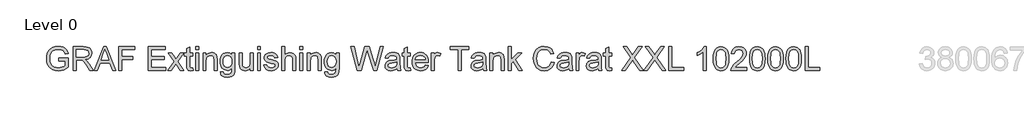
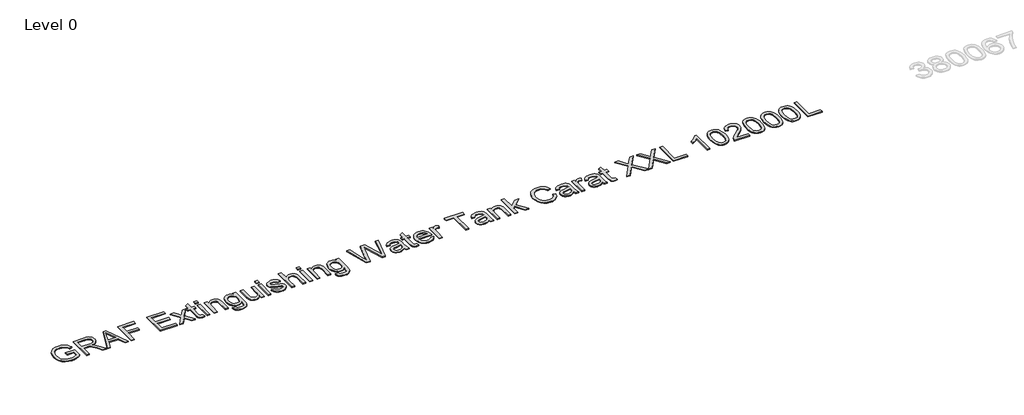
# One storey, part 24 of 37: 1 proxy.
"""IFC4 building model written with IfcOpenShell, lengths in millimetres."""

from ifc_helpers import new_model, si_unit, origin, origin_with_axes, place, context, project, spatial, polyline, outline, extrude, element, save

model = new_model("IFC4")

# Units and contexts
model_context = context("Model", 3, world=origin())
ifc_project = project(units=[si_unit("LENGTHUNIT", "METRE", prefix="MILLI")], contexts=[model_context])

# Site, building, storey
site = spatial("IfcSite", under=ifc_project)
building = spatial("IfcBuilding", under=site)
storey = spatial("IfcBuildingStorey", under=building, Name="Level 0", Elevation=0.0)

# Proxy
placement = place(None, origin())
element("IfcBuildingElementProxy", 1, Name="300mm Arial", ObjectType="300mm Arial", at=placement, inside=storey, context=model_context, shape_type="SweptSolid", body=[
    extrude(outline(polyline([(16759.0059613, -25583.2545597), (16759.0059613, -25545.5834434), (16881.4370893, -25545.5834434), (16881.4370893, -25658.2289103), (16851.6846329, -25678.9222726), (16820.9940775, -25693.7663111), (16789.4389993, -25702.7058436), (16757.0929749, -25705.6856877), (16714.8325307, -25700.949207), (16676.6371825, -25686.739765), (16644.9073605, -25663.5540022), (16622.0434945, -25631.8885595), (16608.2203285, -25593.9047435), (16603.6126065, -25551.7638609), (16608.2019344, -25509.3194757), (16621.9699181, -25469.8365406), (16644.3463404, -25436.717964), (16674.7609844, -25413.3666543), (16711.8067013, -25399.5158972), (16754.0763425, -25394.8989782), (16785.1071888, -25397.5753197), (16813.0110382, -25405.6043443), (16836.5095006, -25418.4066377), (16854.3241862, -25435.4027859), (16867.5035587, -25457.4113262), (16877.0960817, -25485.2507962), (16842.3680214, -25495.0364573), (16834.6149083, -25475.1800266), (16825.1879322, -25460.1980323), (16812.7167326, -25448.9040551), (16795.830949, -25440.1116754), (16775.6986068, -25434.4554897), (16753.4877313, -25432.5700945), (16727.4876713, -25434.6026425), (16705.2584018, -25440.7002866), (16686.8826961, -25450.0996716), (16672.4433278, -25462.0374423), (16653.0559467, -25491.0633317), (16644.2267788, -25519.50061), (16641.2837228, -25550.2187566), (16644.824587, -25586.2436009), (16655.4471796, -25615.8856927), (16672.8296039, -25638.9334997), (16696.6499631, -25655.1754898), (16724.5262213, -25664.804801), (16754.0763425, -25668.0145714), (16780.168373, -25665.5957473), (16805.6166101, -25658.3392749), (16827.7171209, -25648.3420817), (16843.765973, -25637.701095), (16843.765973, -25583.2545597), (16759.0059613, -25583.2545597)])), origin_with_axes(), (0.0, 0.0, 1.0), 10.0),
    extrude(outline(polyline([(16942.6526533, -25700.9767982), (16942.6526533, -25399.6078677), (17072.5149976, -25399.6078677), (17107.4178018, -25401.6404158), (17132.8108566, -25407.7380598), (17151.3705032, -25418.9952489), (17165.7730833, -25436.5064318), (17175.0161185, -25458.2206666), (17178.0971302, -25482.087011), (17172.9927675, -25511.7750881), (17157.6796794, -25536.3863935), (17146.0799003, -25546.4157764), (17131.6980135, -25554.4310054), (17094.5879173, -25564.4190016), (17115.9986494, -25580.532233), (17146.532855, -25619.3069952), (17196.7855355, -25700.9767982), (17153.0075781, -25700.9767982), (17113.7913574, -25638.5104354), (17085.4644438, -25597.1604991), (17065.5620278, -25577.6259652), (17047.6461747, -25570.4522663), (17025.7939842, -25569.1278911), (16980.3237696, -25569.1278911), (16980.3237696, -25700.9767982), (16942.6526533, -25700.9767982)]), holes=[polyline([(16980.3237696, -25531.4567748), (17064.6423229, -25531.4567748), (17088.8581552, -25530.1232026), (17107.6477281, -25526.1224859), (17121.7927908, -25519.1879103), (17132.0750926, -25509.0527613), (17138.3382835, -25496.7930938), (17140.4260139, -25483.4849626), (17136.4436913, -25465.109257), (17124.4967235, -25450.3020067), (17103.941317, -25440.5347397), (17074.1336783, -25437.278984), (16980.3237696, -25437.278984), (16980.3237696, -25531.4567748)])]), origin_with_axes(), (0.0, 0.0, 1.0), 10.0),
    extrude(outline(polyline([(17208.9256414, -25700.9767982), (17329.2230538, -25399.6078677), (17361.3023638, -25399.6078677), (17481.5997762, -25700.9767982), (17441.7949443, -25700.9767982), (17407.2876132, -25606.7990074), (17283.164228, -25606.7990074), (17248.7304732, -25700.9767982), (17208.9256414, -25700.9767982)]), holes=[polyline([(17296.996591, -25569.1278911), (17393.5288265, -25569.1278911), (17366.3791353, -25495.0364573), (17345.2627088, -25437.278984), (17326.500727, -25488.5617342), (17296.996591, -25569.1278911)])]), origin_with_axes(), (0.0, 0.0, 1.0), 10.0),
    extrude(outline(polyline([(17521.8460665, -25700.9767982), (17521.8460665, -25399.6078677), (17724.3283166, -25399.6078677), (17724.3283166, -25437.278984), (17559.5171828, -25437.278984), (17559.5171828, -25526.7478853), (17700.7838689, -25526.7478853), (17700.7838689, -25564.4190016), (17559.5171828, -25564.4190016), (17559.5171828, -25700.9767982), (17521.8460665, -25700.9767982)])), origin_with_axes(), (0.0, 0.0, 1.0), 10.0),
    extrude(outline(polyline([(17893.84834, -25700.9767982), (17893.84834, -25399.6078677), (18110.4572587, -25399.6078677), (18110.4572587, -25437.278984), (17931.5194563, -25437.278984), (17931.5194563, -25526.7478853), (18101.0394797, -25526.7478853), (18101.0394797, -25564.4190016), (17931.5194563, -25564.4190016), (17931.5194563, -25663.3056819), (18115.1661483, -25663.3056819), (18115.1661483, -25700.9767982), (17893.84834, -25700.9767982)])), origin_with_axes(), (0.0, 0.0, 1.0), 10.0),
    extrude(outline(polyline([(18143.4194855, -25700.9767982), (18223.9120661, -25589.7292828), (18148.1283751, -25479.6589899), (18193.4514369, -25479.6589899), (18230.0189072, -25532.6339972), (18247.0886318, -25557.6499729), (18261.877488, -25537.1957339), (18303.5217298, -25479.6589899), (18348.8447916, -25479.6589899), (18269.2351279, -25589.7292828), (18345.9017357, -25700.9767982), (18300.5786739, -25700.9767982), (18254.4462717, -25634.0958515), (18245.9849858, -25621.8821692), (18188.7425473, -25700.9767982), (18143.4194855, -25700.9767982)])), origin_with_axes(), (0.0, 0.0, 1.0), 10.0),
    extrude(outline(polyline([(18458.9150846, -25669.5596758), (18463.6239741, -25702.0804442), (18435.4442133, -25705.6856877), (18417.3628132, -25704.1221892), (18403.8799381, -25699.4316938), (18394.3517944, -25692.2028126), (18388.1345887, -25683.0241568), (18384.7132861, -25667.2604133), (18383.572852, -25640.276269), (18383.572852, -25517.3301062), (18355.3195147, -25517.3301062), (18355.3195147, -25479.6589899), (18383.572852, -25479.6589899), (18383.572852, -25425.8746422), (18421.2439683, -25403.7281461), (18421.2439683, -25479.6589899), (18458.9150846, -25479.6589899), (18458.9150846, -25517.3301062), (18421.2439683, -25517.3301062), (18421.2439683, -25639.172623), (18423.230531, -25658.5967923), (18429.668466, -25665.4761856), (18442.5075476, -25668.0145714), (18458.9150846, -25669.5596758)])), origin_with_axes(), (0.0, 0.0, 1.0), 10.0),
    extrude(outline(polyline([(18496.5862009, -25437.278984), (18496.5862009, -25399.6078677), (18534.2573172, -25399.6078677), (18534.2573172, -25437.278984), (18496.5862009, -25437.278984)])), origin_with_axes(), (0.0, 0.0, 1.0), 10.0),
    extrude(outline(polyline([(18496.5862009, -25700.9767982), (18496.5862009, -25479.6589899), (18534.2573172, -25479.6589899), (18534.2573172, -25700.9767982), (18496.5862009, -25700.9767982)])), origin_with_axes(), (0.0, 0.0, 1.0), 10.0),
    extrude(outline(polyline([(18590.7639916, -25700.9767982), (18590.7639916, -25479.6589899), (18628.435108, -25479.6589899), (18628.435108, -25510.5610775), (18641.5225099, -25494.981275), (18657.2402682, -25483.8528446), (18675.5883827, -25477.1757864), (18696.5668535, -25474.9501003), (18715.1356972, -25476.7435251), (18732.1410424, -25482.1237992), (18746.3228933, -25490.4195382), (18756.4212541, -25500.9593574), (18767.7152313, -25528.6608716), (18769.7017941, -25565.0811892), (18769.7017941, -25700.9767982), (18732.0306778, -25700.9767982), (18732.0306778, -25570.1579607), (18727.6896703, -25536.8278519), (18721.6839967, -25526.9042351), (18712.3489911, -25519.2063044), (18700.3836292, -25514.2674886), (18686.4868868, -25512.6212166), (18664.4231641, -25516.3184307), (18645.6151971, -25527.4100729), (18638.0989081, -25536.4645685), (18632.7301302, -25548.8391991), (18628.435108, -25583.5488653), (18628.435108, -25700.9767982), (18590.7639916, -25700.9767982)])), origin_with_axes(), (0.0, 0.0, 1.0), 10.0),
    extrude(outline(polyline([(18812.0817999, -25719.8123563), (18849.7529163, -25724.5212459), (18853.9099828, -25736.2934697), (18861.9665985, -25744.3868736), (18877.8039184, -25750.6776557), (18898.5340688, -25752.7745831), (18920.6437767, -25750.4017442), (18937.0881019, -25743.2832276), (18948.4924438, -25731.8788858), (18955.4822017, -25716.6485712), (18958.0573756, -25672.7234609), (18945.5217966, -25685.084296), (18931.5330838, -25693.9134639), (18916.091237, -25699.2109646), (18899.1962564, -25700.9767982), (18878.5419816, -25698.9212575), (18860.3571148, -25692.7546356), (18844.6416558, -25682.4769323), (18831.3956047, -25668.0881478), (18820.8856759, -25650.8252852), (18813.378584, -25631.9253477), (18808.8743288, -25611.3883353), (18807.3729104, -25589.214248), (18810.067646, -25558.7996041), (18818.1518529, -25530.8313754), (18831.3404224, -25507.1305779), (18849.3482461, -25489.5182274), (18871.5591215, -25478.5921321), (18897.3568464, -25474.9501003), (18914.9737955, -25477.0102395), (18930.9628667, -25483.190657), (18945.3240601, -25493.4913529), (18958.0573756, -25507.9123271), (18958.0573756, -25479.6589899), (18995.7284919, -25479.6589899), (18995.7284919, -25670.7368982), (18993.153318, -25714.8551464), (18985.4277961, -25743.908627), (18972.1196649, -25763.1764465), (18952.7966631, -25777.9377116), (18927.881855, -25787.3187024), (18897.7983048, -25790.4456994), (18862.7483477, -25786.0403125), (18835.148001, -25772.8241518), (18824.7530354, -25762.9028343), (18817.44368, -25750.7604292), (18813.2199349, -25736.3969365), (18812.0817999, -25719.8123563)]), holes=[polyline([(18845.0440267, -25586.6390741), (18849.0631375, -25621.1923905), (18861.1204699, -25644.9483703), (18879.2478552, -25658.716354), (18901.4771248, -25663.3056819), (18923.5408474, -25658.7439451), (18941.7602032, -25645.0587349), (18953.9830825, -25621.6062577), (18958.0573756, -25587.7427201), (18953.8635209, -25555.0839959), (18941.2819567, -25531.5671394), (18922.7958864, -25517.3576973), (18900.8885136, -25512.6212166), (18879.3766139, -25517.2841209), (18861.3411991, -25531.2728338), (18849.1183198, -25554.4402024), (18845.0440267, -25586.6390741)])]), origin_with_axes(), (0.0, 0.0, 1.0), 10.0),
    extrude(outline(polyline([(19193.5018525, -25700.9767982), (19193.5018525, -25662.9377999), (19179.8718246, -25681.6400008), (19163.9977165, -25694.9987158), (19145.8795283, -25703.0139447), (19125.5172598, -25705.6856877), (19107.1691453, -25703.8094895), (19090.0902237, -25698.180895), (19075.76122, -25689.7196091), (19065.6628592, -25679.3453369), (19054.4424584, -25651.6070344), (19052.2351664, -25616.5846685), (19052.2351664, -25479.6589899), (19089.9062827, -25479.6589899), (19089.9062827, -25598.8527563), (19092.1871511, -25637.2596366), (19097.6777899, -25650.0711271), (19107.0863719, -25659.8108029), (19119.7874978, -25665.9636293), (19135.1557681, -25668.0145714), (19151.4069552, -25665.917644), (19166.6096787, -25659.6268619), (19179.1452577, -25649.7216392), (19187.3950114, -25636.78139), (19191.9751423, -25619.0586749), (19193.5018525, -25594.8060544), (19193.5018525, -25479.6589899), (19231.1729689, -25479.6589899), (19231.1729689, -25700.9767982), (19193.5018525, -25700.9767982)])), origin_with_axes(), (0.0, 0.0, 1.0), 10.0),
    extrude(outline(polyline([(19282.9707538, -25437.278984), (19282.9707538, -25399.6078677), (19320.6418701, -25399.6078677), (19320.6418701, -25437.278984), (19282.9707538, -25437.278984)])), origin_with_axes(), (0.0, 0.0, 1.0), 10.0),
    extrude(outline(polyline([(19282.9707538, -25700.9767982), (19282.9707538, -25479.6589899), (19320.6418701, -25479.6589899), (19320.6418701, -25700.9767982), (19282.9707538, -25700.9767982)])), origin_with_axes(), (0.0, 0.0, 1.0), 10.0),
    extrude(outline(polyline([(19363.0218759, -25635.0523446), (19400.6929922, -25630.3434551), (19406.6342865, -25646.4566865), (19418.1305988, -25658.3024867), (19435.2555057, -25665.5865502), (19458.0825835, -25668.0145714), (19480.6337498, -25665.7888853), (19496.4894638, -25659.1118271), (19505.8704547, -25649.4365307), (19508.9974516, -25638.2161298), (19505.8520606, -25628.6144097), (19496.4158874, -25621.293558), (19457.6411251, -25610.5514038), (19400.9137214, -25592.1205158), (19386.5571266, -25582.8590866), (19376.1552632, -25570.5994191), (19369.8368899, -25556.1232626), (19367.7307655, -25540.2123663), (19369.4230226, -25525.6166481), (19374.4997942, -25512.1429701), (19382.5012276, -25500.324761), (19392.9674703, -25490.6954497), (19416.9165882, -25479.5486253), (19449.326992, -25474.9501003), (19473.846327, -25476.7987074), (19495.1650886, -25482.3445284), (19512.3083896, -25491.0449376), (19524.3013426, -25502.357309), (19532.2475937, -25517.118574), (19537.2507888, -25536.1656643), (19499.5796725, -25540.8745539), (19494.8247977, -25529.0195566), (19485.4162157, -25520.0892211), (19471.261956, -25514.4882178), (19452.270048, -25512.6212166), (19430.6385866, -25514.4054443), (19416.2176124, -25519.7581274), (19408.1058144, -25527.4836493), (19405.4018818, -25536.3863935), (19409.8900421, -25547.349277), (19423.9431343, -25555.6634101), (19456.3903263, -25563.6832376), (19511.6829902, -25581.4151497), (19526.2879054, -25589.8948297), (19537.3611534, -25601.5015067), (19544.3417143, -25616.2719688), (19546.6685679, -25634.2430043), (19543.9370441, -25652.821045), (19535.7424727, -25670.2954398), (19522.3975533, -25685.2958281), (19504.2149857, -25696.4518496), (19482.2524306, -25703.3772282), (19457.5675487, -25705.6856877), (19419.5837327, -25701.2343156), (19391.8638243, -25687.8801992), (19373.35936, -25665.7704912), (19363.0218759, -25635.0523446)])), origin_with_axes(), (0.0, 0.0, 1.0), 10.0),
    extrude(outline(polyline([(19589.0485738, -25700.9767982), (19589.0485738, -25399.6078677), (19626.7196901, -25399.6078677), (19626.7196901, -25510.4139247), (19640.5566516, -25494.8985015), (19656.0950674, -25483.8160564), (19673.3349374, -25477.1665894), (19692.2762616, -25474.9501003), (19715.029763, -25477.3689245), (19734.5826911, -25484.6253968), (19749.9785526, -25496.1493003), (19760.2608543, -25511.3704179), (19766.0549957, -25532.2845093), (19767.9863762, -25560.8873344), (19767.9863762, -25700.9767982), (19730.3152599, -25700.9767982), (19730.3152599, -25564.7868836), (19727.3170216, -25541.2056477), (19718.3223069, -25525.0556281), (19703.8277563, -25515.7298195), (19684.3300105, -25512.6212166), (19668.4099172, -25514.718144), (19653.4647111, -25521.0089261), (19641.085482, -25530.8865577), (19632.8633194, -25543.7440334), (19628.2555974, -25560.8321521), (19626.7196901, -25583.4017125), (19626.7196901, -25700.9767982), (19589.0485738, -25700.9767982)])), origin_with_axes(), (0.0, 0.0, 1.0), 10.0),
    extrude(outline(polyline([(19819.7841611, -25437.278984), (19819.7841611, -25399.6078677), (19857.4552774, -25399.6078677), (19857.4552774, -25437.278984), (19819.7841611, -25437.278984)])), origin_with_axes(), (0.0, 0.0, 1.0), 10.0),
    extrude(outline(polyline([(19819.7841611, -25700.9767982), (19819.7841611, -25479.6589899), (19857.4552774, -25479.6589899), (19857.4552774, -25700.9767982), (19819.7841611, -25700.9767982)])), origin_with_axes(), (0.0, 0.0, 1.0), 10.0),
    extrude(outline(polyline([(19913.9619519, -25700.9767982), (19913.9619519, -25479.6589899), (19951.6330682, -25479.6589899), (19951.6330682, -25510.5610775), (19964.7204702, -25494.981275), (19980.4382284, -25483.8528446), (19998.7863429, -25477.1757864), (20019.7648137, -25474.9501003), (20038.3336574, -25476.7435251), (20055.3390026, -25482.1237992), (20069.5208536, -25490.4195382), (20079.6192143, -25500.9593574), (20090.9131916, -25528.6608716), (20092.8997544, -25565.0811892), (20092.8997544, -25700.9767982), (20055.228638, -25700.9767982), (20055.228638, -25570.1579607), (20050.8876305, -25536.8278519), (20044.8819569, -25526.9042351), (20035.5469513, -25519.2063044), (20023.5815894, -25514.2674886), (20009.684847, -25512.6212166), (19987.6211244, -25516.3184307), (19968.8131574, -25527.4100729), (19961.2968684, -25536.4645685), (19955.9280905, -25548.8391991), (19951.6330682, -25583.5488653), (19951.6330682, -25700.9767982), (19913.9619519, -25700.9767982)])), origin_with_axes(), (0.0, 0.0, 1.0), 10.0),
    extrude(outline(polyline([(20135.2797602, -25719.8123563), (20172.9508765, -25724.5212459), (20177.1079431, -25736.2934697), (20185.1645587, -25744.3868736), (20201.0018786, -25750.6776557), (20221.7320291, -25752.7745831), (20243.841737, -25750.4017442), (20260.2860622, -25743.2832276), (20271.690404, -25731.8788858), (20278.6801619, -25716.6485712), (20281.2553359, -25672.7234609), (20268.7197569, -25685.084296), (20254.731044, -25693.9134639), (20239.2891973, -25699.2109646), (20222.3942167, -25700.9767982), (20201.7399419, -25698.9212575), (20183.555075, -25692.7546356), (20167.839616, -25682.4769323), (20154.5935649, -25668.0881478), (20144.0836362, -25650.8252852), (20136.5765442, -25631.9253477), (20132.0722891, -25611.3883353), (20130.5708707, -25589.214248), (20133.2656063, -25558.7996041), (20141.3498131, -25530.8313754), (20154.5383826, -25507.1305779), (20172.5462063, -25489.5182274), (20194.7570818, -25478.5921321), (20220.5548067, -25474.9501003), (20238.1717557, -25477.0102395), (20254.1608269, -25483.190657), (20268.5220203, -25493.4913529), (20281.2553359, -25507.9123271), (20281.2553359, -25479.6589899), (20318.9264522, -25479.6589899), (20318.9264522, -25670.7368982), (20316.3512782, -25714.8551464), (20308.6257563, -25743.908627), (20295.3176252, -25763.1764465), (20275.9946234, -25777.9377116), (20251.0798152, -25787.3187024), (20220.9962651, -25790.4456994), (20185.946308, -25786.0403125), (20158.3459613, -25772.8241518), (20147.9509957, -25762.9028343), (20140.6416403, -25750.7604292), (20136.4178951, -25736.3969365), (20135.2797602, -25719.8123563)]), holes=[polyline([(20168.241987, -25586.6390741), (20172.2610978, -25621.1923905), (20184.3184302, -25644.9483703), (20202.4458155, -25658.716354), (20224.675085, -25663.3056819), (20246.7388077, -25658.7439451), (20264.9581635, -25645.0587349), (20277.1810428, -25621.6062577), (20281.2553359, -25587.7427201), (20277.0614811, -25555.0839959), (20264.4799169, -25531.5671394), (20245.9938466, -25517.3576973), (20224.0864738, -25512.6212166), (20202.5745742, -25517.2841209), (20184.5391594, -25531.2728338), (20172.3162801, -25554.4402024), (20168.241987, -25586.6390741)])]), origin_with_axes(), (0.0, 0.0, 1.0), 10.0),
    extrude(outline(polyline([(20551.7957551, -25700.9767982), (20469.6109174, -25399.6078677), (20508.4592561, -25399.6078677), (20556.1367627, -25597.6755339), (20570.8520425, -25658.8175215), (20586.5973919, -25604.7388682), (20646.3414279, -25399.6078677), (20702.3330676, -25399.6078677), (20745.743143, -25548.3057702), (20764.3395779, -25603.4880695), (20778.0431822, -25658.8175215), (20792.3170036, -25599.4413675), (20840.4359686, -25399.6078677), (20879.2843072, -25399.6078677), (20797.0258931, -25700.9767982), (20756.7796029, -25700.9767982), (20684.527579, -25468.4753772), (20674.4476123, -25436.0281853), (20663.1168469, -25475.0972531), (20597.2659697, -25700.9767982), (20551.7957551, -25700.9767982)])), origin_with_axes(), (0.0, 0.0, 1.0), 10.0),
    extrude(outline(polyline([(21053.5132202, -25672.7234609), (21035.5145935, -25688.1561106), (21016.982538, -25698.2544714), (20997.4939893, -25703.8278836), (20976.6258832, -25705.6856877), (20945.1443814, -25701.2159215), (20921.9218305, -25687.8066228), (20907.6020238, -25667.4443543), (20902.8287549, -25642.115679), (20904.6313767, -25626.4990883), (20910.039242, -25612.3172373), (20918.3809663, -25600.1771315), (20928.9851648, -25590.685776), (20955.3623038, -25578.324941), (20987.9566486, -25572.6595583), (21026.4738935, -25566.6998699), (21053.292491, -25559.710112), (21053.5132202, -25551.3224025), (21050.9196521, -25534.5101954), (21043.1389479, -25523.5105237), (21025.7381295, -25515.3435434), (21001.494706, -25512.6212166), (20979.0539043, -25514.4330355), (20963.3821313, -25519.868492), (20952.6951594, -25529.9208675), (20945.2087608, -25545.5834434), (20907.5376445, -25540.8745539), (20914.0767469, -25520.2731621), (20923.8348169, -25504.0863544), (20937.7223622, -25491.7071252), (20956.6498908, -25482.5284694), (20979.7988654, -25476.8446926), (21006.3507484, -25474.9501003), (21031.8173795, -25476.6239634), (21052.004904, -25481.6455527), (21067.2260215, -25489.1963306), (21077.7934318, -25498.4577598), (21084.8015838, -25509.9080869), (21089.3449265, -25524.0255585), (21091.1843365, -25556.9877853), (21091.1843365, -25603.8559515), (21093.0973228, -25669.3021584), (21100.6021155, -25700.9767982), (21062.9309992, -25700.9767982), (21053.5132202, -25672.7234609)]), holes=[polyline([(21053.5132202, -25597.3812283), (20992.7391146, -25608.932723), (20960.3287108, -25615.0395641), (20945.6502192, -25624.972378), (20940.4998712, -25639.4669286), (20943.3049715, -25650.6689353), (20951.7202721, -25659.8475911), (20965.5618322, -25665.9728263), (20984.6457107, -25668.0145714), (21004.8792204, -25665.7612942), (21022.7582854, -25659.0014625), (21037.252836, -25649.0410575), (21047.3328026, -25637.1860602), (21051.8025689, -25624.972378), (21053.292491, -25608.0498062), (21053.5132202, -25597.3812283)])]), origin_with_axes(), (0.0, 0.0, 1.0), 10.0),
    extrude(outline(polyline([(21223.0332435, -25669.5596758), (21227.7421331, -25702.0804442), (21199.5623722, -25705.6856877), (21181.4809722, -25704.1221892), (21167.9980971, -25699.4316938), (21158.4699534, -25692.2028126), (21152.2527477, -25683.0241568), (21148.8314451, -25667.2604133), (21147.6910109, -25640.276269), (21147.6910109, -25517.3301062), (21119.4376737, -25517.3301062), (21119.4376737, -25479.6589899), (21147.6910109, -25479.6589899), (21147.6910109, -25425.8746422), (21185.3621272, -25403.7281461), (21185.3621272, -25479.6589899), (21223.0332435, -25479.6589899), (21223.0332435, -25517.3301062), (21185.3621272, -25517.3301062), (21185.3621272, -25639.172623), (21187.34869, -25658.5967923), (21193.7866249, -25665.4761856), (21206.6257066, -25668.0145714), (21223.0332435, -25669.5596758)])), origin_with_axes(), (0.0, 0.0, 1.0), 10.0),
    extrude(outline(polyline([(21415.6562562, -25635.0523446), (21452.5916085, -25639.7612342), (21439.2834774, -25667.5915071), (21418.0474892, -25688.3952339), (21389.3618906, -25701.3630743), (21353.7049282, -25705.6856877), (21330.330626, -25703.8209859), (21309.5039065, -25698.2268803), (21291.2247699, -25688.9033709), (21275.493216, -25675.8504579), (21262.8426739, -25659.4314246), (21253.8065724, -25640.0095545), (21248.3849115, -25617.5848477), (21246.5776912, -25592.157304), (21248.4033056, -25565.8675369), (21253.8801488, -25542.6955698), (21263.0082208, -25522.6414025), (21275.7875216, -25505.7050351), (21291.4776887, -25492.2497512), (21309.3383596, -25482.638834), (21329.3695342, -25476.8722838), (21351.5712127, -25474.9501003), (21373.0578204, -25476.8676852), (21392.4888876, -25482.6204399), (21409.8644141, -25492.2083644), (21425.1843999, -25505.6314587), (21437.6900885, -25522.5310379), (21446.6227232, -25542.548417), (21451.982304, -25565.6835959), (21453.7688309, -25591.9365748), (21453.5481017, -25602.0901179), (21284.2488075, -25602.0901179), (21290.7695159, -25630.2882728), (21305.9170571, -25651.0184232), (21327.7784446, -25663.7655344), (21354.4406922, -25668.0145714), (21374.490261, -25666.0464027), (21391.3760445, -25660.1418967), (21405.098043, -25649.9331713), (21415.6562562, -25635.0523446)]), holes=[polyline([(21284.2488075, -25564.4190016), (21416.0977146, -25564.4190016), (21411.002549, -25544.5165856), (21401.0145528, -25530.2795524), (21379.0519977, -25517.0358006), (21351.4240599, -25512.6212166), (21326.0310051, -25516.1436868), (21305.0341403, -25526.7110971), (21290.4384221, -25543.1830134), (21284.2488075, -25564.4190016)])]), origin_with_axes(), (0.0, 0.0, 1.0), 10.0),
    extrude(outline(polyline([(21491.4399472, -25700.9767982), (21491.4399472, -25479.6589899), (21524.402174, -25479.6589899), (21524.402174, -25512.4004875), (21536.579068, -25493.4177765), (21547.7994689, -25482.2341638), (21559.0566579, -25476.7711162), (21571.3439166, -25474.9501003), (21590.1058983, -25477.8563681), (21609.1621857, -25486.5751714), (21596.5806214, -25520.3467385), (21583.3368696, -25514.5525971), (21570.0931178, -25512.6212166), (21558.8451258, -25514.4790207), (21548.7927503, -25520.052433), (21540.6717552, -25528.918389), (21535.2179046, -25540.6538247), (21530.6377738, -25561.6966748), (21529.1110635, -25584.6525113), (21529.1110635, -25700.9767982), (21491.4399472, -25700.9767982)])), origin_with_axes(), (0.0, 0.0, 1.0), 10.0),
    extrude(outline(polyline([(21830.479994, -25700.9767982), (21830.479994, -25437.278984), (21731.5933137, -25437.278984), (21731.5933137, -25399.6078677), (21967.0377906, -25399.6078677), (21967.0377906, -25437.278984), (21868.1511103, -25437.278984), (21868.1511103, -25700.9767982), (21830.479994, -25700.9767982)])), origin_with_axes(), (0.0, 0.0, 1.0), 10.0),
    extrude(outline(polyline([(22145.975593, -25672.7234609), (22127.9769664, -25688.1561106), (22109.4449109, -25698.2544714), (22089.9563622, -25703.8278836), (22069.088256, -25705.6856877), (22037.6067543, -25701.2159215), (22014.3842034, -25687.8066228), (22000.0643967, -25667.4443543), (21995.2911278, -25642.115679), (21997.0937496, -25626.4990883), (22002.5016149, -25612.3172373), (22010.8433392, -25600.1771315), (22021.4475377, -25590.685776), (22047.8246767, -25578.324941), (22080.4190215, -25572.6595583), (22118.9362664, -25566.6998699), (22145.7548638, -25559.710112), (22145.975593, -25551.3224025), (22143.382025, -25534.5101954), (22135.6013208, -25523.5105237), (22118.2005024, -25515.3435434), (22093.9570789, -25512.6212166), (22071.5162772, -25514.4330355), (22055.8445042, -25519.868492), (22045.1575323, -25529.9208675), (22037.6711337, -25545.5834434), (22000.0000174, -25540.8745539), (22006.5391198, -25520.2731621), (22016.2971897, -25504.0863544), (22030.1847351, -25491.7071252), (22049.1122637, -25482.5284694), (22072.2612383, -25476.8446926), (22098.8131213, -25474.9501003), (22124.2797524, -25476.6239634), (22144.4672769, -25481.6455527), (22159.6883944, -25489.1963306), (22170.2558047, -25498.4577598), (22177.2639567, -25509.9080869), (22181.8072994, -25524.0255585), (22183.6467093, -25556.9877853), (22183.6467093, -25603.8559515), (22185.5596957, -25669.3021584), (22193.0644884, -25700.9767982), (22155.3933721, -25700.9767982), (22145.975593, -25672.7234609)]), holes=[polyline([(22145.975593, -25597.3812283), (22085.2014874, -25608.932723), (22052.7910837, -25615.0395641), (22038.1125921, -25624.972378), (22032.9622441, -25639.4669286), (22035.7673443, -25650.6689353), (22044.182645, -25659.8475911), (22058.024205, -25665.9728263), (22077.1080835, -25668.0145714), (22097.3415933, -25665.7612942), (22115.2206582, -25659.0014625), (22129.7152089, -25649.0410575), (22139.7951755, -25637.1860602), (22144.2649418, -25624.972378), (22145.7548638, -25608.0498062), (22145.975593, -25597.3812283)])]), origin_with_axes(), (0.0, 0.0, 1.0), 10.0),
    extrude(outline(polyline([(22235.4444943, -25700.9767982), (22235.4444943, -25479.6589899), (22273.1156106, -25479.6589899), (22273.1156106, -25510.5610775), (22286.2030125, -25494.981275), (22301.9207708, -25483.8528446), (22320.2688853, -25477.1757864), (22341.2473561, -25474.9501003), (22359.8161998, -25476.7435251), (22376.821545, -25482.1237992), (22391.0033959, -25490.4195382), (22401.1017567, -25500.9593574), (22412.3957339, -25528.6608716), (22414.3822967, -25565.0811892), (22414.3822967, -25700.9767982), (22376.7111804, -25700.9767982), (22376.7111804, -25570.1579607), (22372.3701729, -25536.8278519), (22366.3644993, -25526.9042351), (22357.0294937, -25519.2063044), (22345.0641318, -25514.2674886), (22331.1673894, -25512.6212166), (22309.1036667, -25516.3184307), (22290.2956997, -25527.4100729), (22282.7794107, -25536.4645685), (22277.4106329, -25548.8391991), (22273.1156106, -25583.5488653), (22273.1156106, -25700.9767982), (22235.4444943, -25700.9767982)])), origin_with_axes(), (0.0, 0.0, 1.0), 10.0),
    extrude(outline(polyline([(22466.1800816, -25700.9767982), (22466.1800816, -25399.6078677), (22503.8511979, -25399.6078677), (22503.8511979, -25561.549522), (22588.316904, -25479.6589899), (22640.4089946, -25479.6589899), (22554.9132189, -25562.5795916), (22645.1178841, -25700.9767982), (22601.1191975, -25700.9767982), (22527.9106804, -25588.7727896), (22503.8511979, -25612.0965081), (22503.8511979, -25700.9767982), (22466.1800816, -25700.9767982)])), origin_with_axes(), (0.0, 0.0, 1.0), 10.0),
    extrude(outline(polyline([(23012.4112681, -25593.8495612), (23050.0823844, -25603.5616459), (23042.6281755, -25626.9888312), (23032.6999601, -25647.4591649), (23020.2977383, -25664.9726472), (23005.4215102, -25679.5292779), (22988.4069679, -25690.9727072), (22969.5898038, -25699.1465853), (22948.970018, -25704.0509121), (22926.5476104, -25705.6856877), (22882.8524264, -25700.7376749), (22848.1519572, -25685.8936364), (22821.554089, -25661.668607), (22802.1667078, -25628.5776215), (22790.3301046, -25589.6741005), (22786.3845702, -25548.0114646), (22790.8451394, -25504.0679603), (22804.226847, -25466.1209325), (22825.8307172, -25435.3751947), (22854.9577741, -25413.0355606), (22889.5018935, -25399.4331238), (22927.3569508, -25394.8989782), (22968.6609018, -25400.766696), (22986.629638, -25408.1013433), (23002.809548, -25418.3698495), (23016.9339174, -25431.3009016), (23028.7360316, -25446.6231867), (23045.3734948, -25484.4414558), (23007.7023785, -25493.4177765), (22994.6425677, -25465.9461885), (22976.8002909, -25447.1014333), (22953.954819, -25436.2029292), (22925.8854228, -25432.5700945), (22893.5302013, -25436.5984023), (22866.9507272, -25448.6833259), (22846.7815968, -25467.5556722), (22833.6574066, -25491.9462485), (22826.4561166, -25519.5190041), (22824.0556865, -25547.9378882), (22826.897575, -25582.7395249), (22835.4232402, -25612.8322721), (22849.954579, -25637.0664986), (22870.8134881, -25654.292573), (22895.8202668, -25664.5840718), (22922.7952141, -25668.0145714), (22954.2399276, -25663.3424701), (22980.4423227, -25649.3261661), (23000.225177, -25626.1128122), (23012.4112681, -25593.8495612)])), origin_with_axes(), (0.0, 0.0, 1.0), 10.0),
    extrude(outline(polyline([(23238.4379659, -25672.7234609), (23220.4393393, -25688.1561106), (23201.9072838, -25698.2544714), (23182.4187351, -25703.8278836), (23161.5506289, -25705.6856877), (23130.0691272, -25701.2159215), (23106.8465762, -25687.8066228), (23092.5267696, -25667.4443543), (23087.7535007, -25642.115679), (23089.5561225, -25626.4990883), (23094.9639878, -25612.3172373), (23103.305712, -25600.1771315), (23113.9099105, -25590.685776), (23140.2870496, -25578.324941), (23172.8813944, -25572.6595583), (23211.3986393, -25566.6998699), (23238.2172367, -25559.710112), (23238.4379659, -25551.3224025), (23235.8443978, -25534.5101954), (23228.0636936, -25523.5105237), (23210.6628753, -25515.3435434), (23186.4194518, -25512.6212166), (23163.9786501, -25514.4330355), (23148.3068771, -25519.868492), (23137.6199051, -25529.9208675), (23130.1335065, -25545.5834434), (23092.4623902, -25540.8745539), (23099.0014927, -25520.2731621), (23108.7595626, -25504.0863544), (23122.6471079, -25491.7071252), (23141.5746366, -25482.5284694), (23164.7236111, -25476.8446926), (23191.2754941, -25474.9501003), (23216.7421252, -25476.6239634), (23236.9296497, -25481.6455527), (23252.1507673, -25489.1963306), (23262.7181776, -25498.4577598), (23269.7263296, -25509.9080869), (23274.2696722, -25524.0255585), (23276.1090822, -25556.9877853), (23276.1090822, -25603.8559515), (23278.0220686, -25669.3021584), (23285.5268613, -25700.9767982), (23247.855745, -25700.9767982), (23238.4379659, -25672.7234609)]), holes=[polyline([(23238.4379659, -25597.3812283), (23177.6638603, -25608.932723), (23145.2534565, -25615.0395641), (23130.5749649, -25624.972378), (23125.424617, -25639.4669286), (23128.2297172, -25650.6689353), (23136.6450178, -25659.8475911), (23150.4865779, -25665.9728263), (23169.5704564, -25668.0145714), (23189.8039662, -25665.7612942), (23207.6830311, -25659.0014625), (23222.1775817, -25649.0410575), (23232.2575484, -25637.1860602), (23236.7273146, -25624.972378), (23238.2172367, -25608.0498062), (23238.4379659, -25597.3812283)])]), origin_with_axes(), (0.0, 0.0, 1.0), 10.0),
    extrude(outline(polyline([(23327.9068671, -25700.9767982), (23327.9068671, -25479.6589899), (23360.8690939, -25479.6589899), (23360.8690939, -25512.4004875), (23373.0459879, -25493.4177765), (23384.2663888, -25482.2341638), (23395.5235779, -25476.7711162), (23407.8108365, -25474.9501003), (23426.5728182, -25477.8563681), (23445.6291056, -25486.5751714), (23433.0475414, -25520.3467385), (23419.8037895, -25514.5525971), (23406.5600377, -25512.6212166), (23395.3120457, -25514.4790207), (23385.2596702, -25520.052433), (23377.1386751, -25528.918389), (23371.6848246, -25540.6538247), (23367.1046937, -25561.6966748), (23365.5779834, -25584.6525113), (23365.5779834, -25700.9767982), (23327.9068671, -25700.9767982)])), origin_with_axes(), (0.0, 0.0, 1.0), 10.0),
    extrude(outline(polyline([(23610.4402394, -25672.7234609), (23592.4416128, -25688.1561106), (23573.9095573, -25698.2544714), (23554.4210086, -25703.8278836), (23533.5529024, -25705.6856877), (23502.0714007, -25701.2159215), (23478.8488498, -25687.8066228), (23464.5290431, -25667.4443543), (23459.7557742, -25642.115679), (23461.558396, -25626.4990883), (23466.9662613, -25612.3172373), (23475.3079856, -25600.1771315), (23485.9121841, -25590.685776), (23512.2893231, -25578.324941), (23544.8836679, -25572.6595583), (23583.4009128, -25566.6998699), (23610.2195102, -25559.710112), (23610.4402394, -25551.3224025), (23607.8466714, -25534.5101954), (23600.0659672, -25523.5105237), (23582.6651488, -25515.3435434), (23558.4217253, -25512.6212166), (23535.9809236, -25514.4330355), (23520.3091506, -25519.868492), (23509.6221787, -25529.9208675), (23502.1357801, -25545.5834434), (23464.4646638, -25540.8745539), (23471.0037662, -25520.2731621), (23480.7618361, -25504.0863544), (23494.6493815, -25491.7071252), (23513.5769101, -25482.5284694), (23536.7258847, -25476.8446926), (23563.2777677, -25474.9501003), (23588.7443988, -25476.6239634), (23608.9319233, -25481.6455527), (23624.1530408, -25489.1963306), (23634.7204511, -25498.4577598), (23641.7286031, -25509.9080869), (23646.2719458, -25524.0255585), (23648.1113557, -25556.9877853), (23648.1113557, -25603.8559515), (23650.0243421, -25669.3021584), (23657.5291348, -25700.9767982), (23619.8580185, -25700.9767982), (23610.4402394, -25672.7234609)]), holes=[polyline([(23610.4402394, -25597.3812283), (23549.6661338, -25608.932723), (23517.2557301, -25615.0395641), (23502.5772385, -25624.972378), (23497.4268905, -25639.4669286), (23500.2319907, -25650.6689353), (23508.6472914, -25659.8475911), (23522.4888514, -25665.9728263), (23541.5727299, -25668.0145714), (23561.8062397, -25665.7612942), (23579.6853046, -25659.0014625), (23594.1798552, -25649.0410575), (23604.2598219, -25637.1860602), (23608.7295882, -25624.972378), (23610.2195102, -25608.0498062), (23610.4402394, -25597.3812283)])]), origin_with_axes(), (0.0, 0.0, 1.0), 10.0),
    extrude(outline(polyline([(23779.9602628, -25669.5596758), (23784.6691524, -25702.0804442), (23756.4893915, -25705.6856877), (23738.4079915, -25704.1221892), (23724.9251163, -25699.4316938), (23715.3969727, -25692.2028126), (23709.1797669, -25683.0241568), (23705.7584644, -25667.2604133), (23704.6180302, -25640.276269), (23704.6180302, -25517.3301062), (23676.364693, -25517.3301062), (23676.364693, -25479.6589899), (23704.6180302, -25479.6589899), (23704.6180302, -25425.8746422), (23742.2891465, -25403.7281461), (23742.2891465, -25479.6589899), (23779.9602628, -25479.6589899), (23779.9602628, -25517.3301062), (23742.2891465, -25517.3301062), (23742.2891465, -25639.172623), (23744.2757093, -25658.5967923), (23750.7136442, -25665.4761856), (23763.5527258, -25668.0145714), (23779.9602628, -25669.5596758)])), origin_with_axes(), (0.0, 0.0, 1.0), 10.0),
    extrude(outline(polyline([(23907.1002803, -25700.9767982), (24023.2774144, -25536.7542755), (23925.9358385, -25399.6078677), (23971.1117475, -25399.6078677), (24025.9261648, -25476.7895103), (24044.3938409, -25506.8822575), (24066.0253023, -25476.2744755), (24120.2511084, -25399.6078677), (24166.089205, -25399.6078677), (24068.747629, -25537.1957339), (24184.9247631, -25700.9767982), (24139.7488541, -25700.9767982), (24062.3464823, -25591.789422), (24046.2332509, -25569.1278911), (24028.5013388, -25593.996714), (23952.9383769, -25700.9767982), (23907.1002803, -25700.9767982)])), origin_with_axes(), (0.0, 0.0, 1.0), 10.0),
    extrude(outline(polyline([(24189.6336526, -25700.9767982), (24305.8107867, -25536.7542755), (24208.4692108, -25399.6078677), (24253.6451198, -25399.6078677), (24308.4595371, -25476.7895103), (24326.9272132, -25506.8822575), (24348.5586746, -25476.2744755), (24402.7844806, -25399.6078677), (24448.6225772, -25399.6078677), (24351.2810013, -25537.1957339), (24467.4581354, -25700.9767982), (24422.2822264, -25700.9767982), (24344.8798546, -25591.789422), (24328.7666232, -25569.1278911), (24311.0347111, -25593.996714), (24235.4717492, -25700.9767982), (24189.6336526, -25700.9767982)])), origin_with_axes(), (0.0, 0.0, 1.0), 10.0),
    extrude(outline(polyline([(24505.1292517, -25700.9767982), (24505.1292517, -25399.6078677), (24542.800368, -25399.6078677), (24542.800368, -25663.3056819), (24693.4848332, -25663.3056819), (24693.4848332, -25700.9767982), (24505.1292517, -25700.9767982)])), origin_with_axes(), (0.0, 0.0, 1.0), 10.0),
    extrude(outline(polyline([(24980.7270951, -25700.9767982), (24943.0559788, -25700.9767982), (24943.0559788, -25466.1209325), (24907.3714252, -25491.5415783), (24867.7137462, -25510.5610775), (24867.7137462, -25474.9501003), (24897.3006556, -25458.8552631), (24922.9328336, -25439.7070052), (24943.1387522, -25419.3447368), (24956.4468834, -25399.6078677), (24980.7270951, -25399.6078677), (24980.7270951, -25700.9767982)])), origin_with_axes(), (0.0, 0.0, 1.0), 10.0),
    extrude(outline(polyline([(25070.1959963, -25552.7203541), (25072.9643083, -25504.4818275), (25081.2692444, -25466.0105679), (25095.028031, -25436.717964), (25114.1578947, -25416.0154047), (25138.7967913, -25403.709752), (25169.0826766, -25399.6078677), (25192.2960305, -25402.0358889), (25213.0813632, -25409.3199524), (25230.4637875, -25421.1749497), (25243.468416, -25437.3157722), (25253.2908653, -25457.6044643), (25261.1267518, -25481.9030701), (25266.2587056, -25512.7591724), (25267.9693569, -25552.7203541), (25265.228636, -25600.6829692), (25257.0064734, -25639.0622584), (25243.3304603, -25668.3824534), (25224.2281877, -25689.1677861), (25199.5341088, -25701.5562123), (25169.0826766, -25705.6856877), (25148.3341321, -25703.892263), (25129.9400323, -25698.5119888), (25113.9003773, -25689.5448652), (25100.2151671, -25676.9908921), (25087.0817799, -25654.2971715), (25077.700789, -25626.0208417), (25072.0721945, -25592.1619025), (25070.1959963, -25552.7203541)]), holes=[polyline([(25107.8671126, -25552.6467777), (25112.2816965, -25611.9033701), (25117.7999265, -25632.1713688), (25125.5254484, -25646.1991691), (25145.2439233, -25662.5607208), (25169.0826766, -25668.0145714), (25192.9214299, -25662.5423267), (25212.6399048, -25646.1255927), (25220.3654267, -25632.0747997), (25225.8836567, -25611.8113996), (25230.2982406, -25552.6467777), (25226.0308095, -25494.7237576), (25220.6965205, -25474.5224375), (25213.228516, -25460.1612441), (25193.5468293, -25442.9995491), (25168.6412182, -25437.278984), (25145.0599823, -25442.3189674), (25126.1140596, -25457.4389174), (25118.1310203, -25473.0739022), (25112.4288493, -25494.1535405), (25107.8671126, -25552.6467777)])]), origin_with_axes(), (0.0, 0.0, 1.0), 10.0),
    extrude(outline(polyline([(25493.9960547, -25663.3056819), (25493.9960547, -25700.9767982), (25296.2226941, -25700.9767982), (25300.2693961, -25675.0043293), (25309.5584165, -25654.7064402), (25323.1516562, -25635.0155564), (25342.8149488, -25614.4049677), (25370.314128, -25591.3479636), (25410.9650884, -25555.2403458), (25435.3556647, -25528.5872952), (25447.5509529, -25506.9558339), (25451.6160489, -25485.9129838), (25447.7808791, -25467.0498345), (25436.2753697, -25451.3688645), (25418.5894428, -25440.8014541), (25396.2130204, -25437.278984), (25372.714558, -25440.7186807), (25354.458414, -25451.0377707), (25342.6769931, -25467.4269135), (25338.6027, -25489.076769), (25300.9315837, -25484.3678794), (25310.0642542, -25447.9291678), (25318.6106128, -25433.3932305), (25329.8103203, -25421.3129054), (25343.4058593, -25411.8169514), (25359.1397124, -25405.0341272), (25397.0223608, -25399.6078677), (25417.2121846, -25401.1161839), (25435.1809208, -25405.6411325), (25450.9285694, -25413.1827134), (25464.4551305, -25423.7409266), (25475.3191457, -25436.534023), (25483.0791565, -25450.7802533), (25487.735163, -25466.4796174), (25489.2871652, -25483.6321154), (25487.6133021, -25501.6491361), (25482.5917129, -25519.3534572), (25473.6797716, -25537.3612808), (25460.3348522, -25556.2888095), (25439.0620758, -25578.885961), (25406.3665635, -25607.9026534), (25363.0300645, -25644.1390299), (25346.0339163, -25663.3056819), (25493.9960547, -25663.3056819)])), origin_with_axes(), (0.0, 0.0, 1.0), 10.0),
    extrude(outline(polyline([(25531.667171, -25552.7203541), (25534.4354831, -25504.4818275), (25542.7404191, -25466.0105679), (25556.4992057, -25436.717964), (25575.6290695, -25416.0154047), (25600.2679661, -25403.709752), (25630.5538514, -25399.6078677), (25653.7672052, -25402.0358889), (25674.552538, -25409.3199524), (25691.9349622, -25421.1749497), (25704.9395908, -25437.3157722), (25714.76204, -25457.6044643), (25722.5979265, -25481.9030701), (25727.7298804, -25512.7591724), (25729.4405317, -25552.7203541), (25726.6998108, -25600.6829692), (25718.4776482, -25639.0622584), (25704.801635, -25668.3824534), (25685.6993624, -25689.1677861), (25661.0052835, -25701.5562123), (25630.5538514, -25705.6856877), (25609.8053068, -25703.892263), (25591.4112071, -25698.5119888), (25575.3715521, -25689.5448652), (25561.6863419, -25676.9908921), (25548.5529546, -25654.2971715), (25539.1719637, -25626.0208417), (25533.5433692, -25592.1619025), (25531.667171, -25552.7203541)]), holes=[polyline([(25569.3382874, -25552.6467777), (25573.7528713, -25611.9033701), (25579.2711012, -25632.1713688), (25586.9966231, -25646.1991691), (25606.7150981, -25662.5607208), (25630.5538514, -25668.0145714), (25654.3926046, -25662.5423267), (25674.1110796, -25646.1255927), (25681.8366015, -25632.0747997), (25687.3548314, -25611.8113996), (25691.7694153, -25552.6467777), (25687.5019842, -25494.7237576), (25682.1676953, -25474.5224375), (25674.6996908, -25460.1612441), (25655.018004, -25442.9995491), (25630.112393, -25437.278984), (25606.5311571, -25442.3189674), (25587.5852343, -25457.4389174), (25579.602195, -25473.0739022), (25573.9000241, -25494.1535405), (25569.3382874, -25552.6467777)])]), origin_with_axes(), (0.0, 0.0, 1.0), 10.0),
    extrude(outline(polyline([(25762.4027584, -25552.7203541), (25765.1710704, -25504.4818275), (25773.4760065, -25466.0105679), (25787.2347931, -25436.717964), (25806.3646568, -25416.0154047), (25831.0035535, -25403.709752), (25861.2894387, -25399.6078677), (25884.5027926, -25402.0358889), (25905.2881253, -25409.3199524), (25922.6705496, -25421.1749497), (25935.6751782, -25437.3157722), (25945.4976274, -25457.6044643), (25953.3335139, -25481.9030701), (25958.4654678, -25512.7591724), (25960.176119, -25552.7203541), (25957.4353982, -25600.6829692), (25949.2132356, -25639.0622584), (25935.5372224, -25668.3824534), (25916.4349498, -25689.1677861), (25891.7408709, -25701.5562123), (25861.2894387, -25705.6856877), (25840.5408942, -25703.892263), (25822.1467944, -25698.5119888), (25806.1071394, -25689.5448652), (25792.4219292, -25676.9908921), (25779.288542, -25654.2971715), (25769.9075511, -25626.0208417), (25764.2789566, -25592.1619025), (25762.4027584, -25552.7203541)]), holes=[polyline([(25800.0738747, -25552.6467777), (25804.4884587, -25611.9033701), (25810.0066886, -25632.1713688), (25817.7322105, -25646.1991691), (25837.4506854, -25662.5607208), (25861.2894387, -25668.0145714), (25885.128192, -25662.5423267), (25904.846667, -25646.1255927), (25912.5721889, -25632.0747997), (25918.0904188, -25611.8113996), (25922.5050027, -25552.6467777), (25918.2375716, -25494.7237576), (25912.9032826, -25474.5224375), (25905.4352781, -25460.1612441), (25885.7535914, -25442.9995491), (25860.8479803, -25437.278984), (25837.2667444, -25442.3189674), (25818.3208217, -25457.4389174), (25810.3377824, -25473.0739022), (25804.6356115, -25494.1535405), (25800.0738747, -25552.6467777)])]), origin_with_axes(), (0.0, 0.0, 1.0), 10.0),
    extrude(outline(polyline([(25993.1383458, -25552.7203541), (25995.9066578, -25504.4818275), (26004.2115939, -25466.0105679), (26017.9703805, -25436.717964), (26037.1002442, -25416.0154047), (26061.7391408, -25403.709752), (26092.0250261, -25399.6078677), (26115.23838, -25402.0358889), (26136.0237127, -25409.3199524), (26153.406137, -25421.1749497), (26166.4107655, -25437.3157722), (26176.2332148, -25457.6044643), (26184.0691013, -25481.9030701), (26189.2010551, -25512.7591724), (26190.9117064, -25552.7203541), (26188.1709855, -25600.6829692), (26179.9488229, -25639.0622584), (26166.2728098, -25668.3824534), (26147.1705372, -25689.1677861), (26122.4764583, -25701.5562123), (26092.0250261, -25705.6856877), (26071.2764816, -25703.892263), (26052.8823818, -25698.5119888), (26036.8427268, -25689.5448652), (26023.1575166, -25676.9908921), (26010.0241294, -25654.2971715), (26000.6431385, -25626.0208417), (25995.014544, -25592.1619025), (25993.1383458, -25552.7203541)]), holes=[polyline([(26030.8094621, -25552.6467777), (26035.224046, -25611.9033701), (26040.742276, -25632.1713688), (26048.4677979, -25646.1991691), (26068.1862728, -25662.5607208), (26092.0250261, -25668.0145714), (26115.8637794, -25662.5423267), (26135.5822543, -25646.1255927), (26143.3077762, -25632.0747997), (26148.8260062, -25611.8113996), (26153.2405901, -25552.6467777), (26148.973159, -25494.7237576), (26143.63887, -25474.5224375), (26136.1708655, -25460.1612441), (26116.4891788, -25442.9995491), (26091.5835677, -25437.278984), (26068.0023318, -25442.3189674), (26049.0564091, -25457.4389174), (26041.0733698, -25473.0739022), (26035.3711988, -25494.1535405), (26030.8094621, -25552.6467777)])]), origin_with_axes(), (0.0, 0.0, 1.0), 10.0),
    extrude(outline(polyline([(26238.0006018, -25700.9767982), (26238.0006018, -25399.6078677), (26275.6717181, -25399.6078677), (26275.6717181, -25663.3056819), (26426.3561833, -25663.3056819), (26426.3561833, -25700.9767982), (26238.0006018, -25700.9767982)])), origin_with_axes(), (0.0, 0.0, 1.0), 10.0),
])

save(model, "model.ifc")
